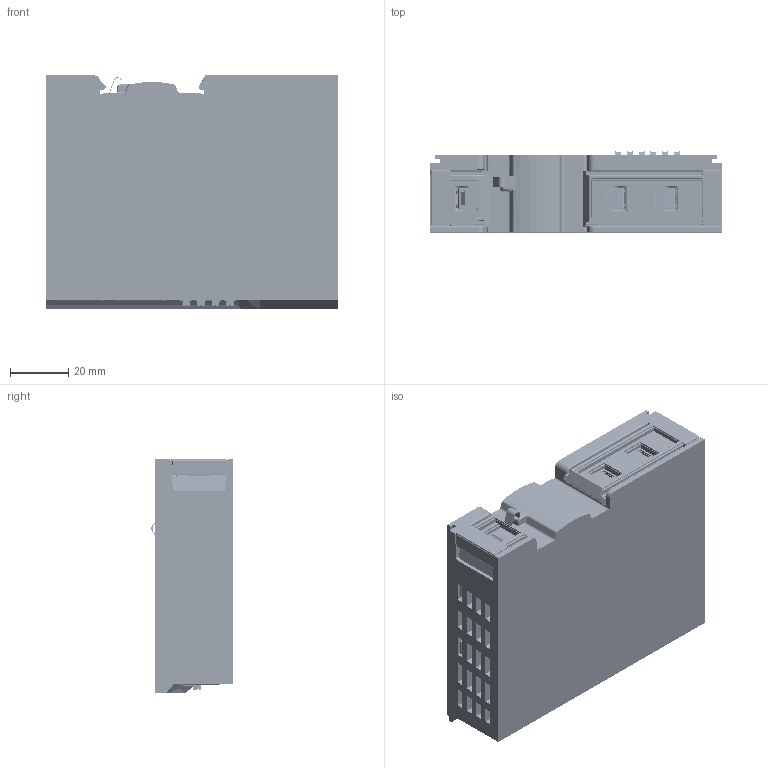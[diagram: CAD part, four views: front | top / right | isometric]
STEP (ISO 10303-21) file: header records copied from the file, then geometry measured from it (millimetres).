
FILE_DESCRIPTION((''),'2;1');
FILE_NAME('00-XIAOOUHEQI_ASM','2024-12-02T',('18137'),(''),'CREO PARAMETRIC BY PTC INC, 2016050','CREO PARAMETRIC BY PTC INC, 2016050','');
FILE_SCHEMA(('CONFIG_CONTROL_DESIGN'));
Products named in the file (118): 00-XIAOOUHEQI_SKEL; DGKYD111B002BA2A1D28_A_1_1; BREP_1-6267_1_1; BREP_2-6268_1_1; BREP_3-6269_1_1; BREP_4-6270_1_1; BREP_5-6271_1_1; BREP_6-6272_1_1; _X2_56FE5757_X0__04_A_ASM_1_ASM_ASM; 16_A_ASM_1_ASM_1_ASM; BREP_1-6175_1_1; BREP_2-6176_1_1; BREP_3-6177_1_1; BREP_4-6178_1_1; BREP_5-6179_1_1; BREP_6-6180_1_1; BREP_7_1_1; BREP_8_1_1; BREP_9_1_1; BREP_10_1_1; BREP_11_1_1; BREP_12_1_1; BREP_13_1_1; BREP_14_1_1; BREP_15_1_1; BREP_16_1_1; BREP_17_1_1; BREP_18_1_1; BREP_19_1_1; BREP_20_1_1; BREP_21_1_1; BREP_22_1_1; BREP_23_1_1; BREP_24_1_1; BREP_25_1_1; BREP_26_1_1; BREP_27_1_1; BREP_28_1_1; BREP_29_1_1; BREP_30_1_1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
Assembly tree (120 placements, depth 5):
  00-XIAOOUHEQI_ASM
    00-XIAOOUHEQI_SKEL
    XIAOOUHEQI-ID_ASM
      DGKYD111B002BA2A1D28_A_1_1  x2
      16_A_ASM_1_ASM_1_ASM
        _X2_56FE5757_X0__04_A_ASM_1_ASM_ASM
          BREP_1-6267_1_1
          BREP_2-6268_1_1
          BREP_3-6269_1_1
          BREP_4-6270_1_1
          BREP_5-6271_1_1
          BREP_6-6272_1_1
      BREP_1-6175_1_1
      BREP_2-6176_1_1
      BREP_3-6177_1_1
      BREP_4-6178_1_1
      BREP_5-6179_1_1
      BREP_6-6180_1_1
      BREP_7_1_1
      BREP_8_1_1
      BREP_9_1_1
      BREP_10_1_1
      BREP_11_1_1
      BREP_12_1_1
      BREP_13_1_1
      BREP_14_1_1
      BREP_15_1_1
      BREP_16_1_1
      BREP_17_1_1
      BREP_18_1_1
      BREP_19_1_1
      BREP_20_1_1
      BREP_21_1_1
      BREP_22_1_1
      BREP_23_1_1
      BREP_24_1_1
      BREP_25_1_1
      BREP_26_1_1
      BREP_27_1_1
      BREP_28_1_1
      BREP_29_1_1
      BREP_30_1_1
      BREP_31_1_1
      BREP_32_1_1
      BREP_33_1_1
      BREP_34_1_1
      BREP_35_1_1
      BREP_36_1_1
      BREP_37_1_1
      BREP_38_1_1
      BREP_39_1_1
      BREP_40_1_1
      BREP_41_1_1
      BREP_42_1_1
      BREP_43_1_1
      BREP_44_1_1
      BREP_45_1_1
      BREP_46_1_1
      BREP_47_1_1
      BREP_48_1_1
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Bounding box: 100 x 27.86 x 80.25 mm (x, y, z)
Surface area: 154629.8 mm2
Topology: 116 solids, 163 shells, 13549 faces, 38498 edges, 24994 vertices
Faces by surface type: plane 10194, cylinder 2094, extrusion 667, bspline 267, cone 163, torus 97, sphere 67
Entity records: 398700 total; most frequent: CARTESIAN_POINT 102078, ORIENTED_EDGE 64546, DIRECTION 55940, EDGE_CURVE 32273, VECTOR 26116, LINE 25577, VERTEX_POINT 20925, AXIS2_PLACEMENT_3D 14912
